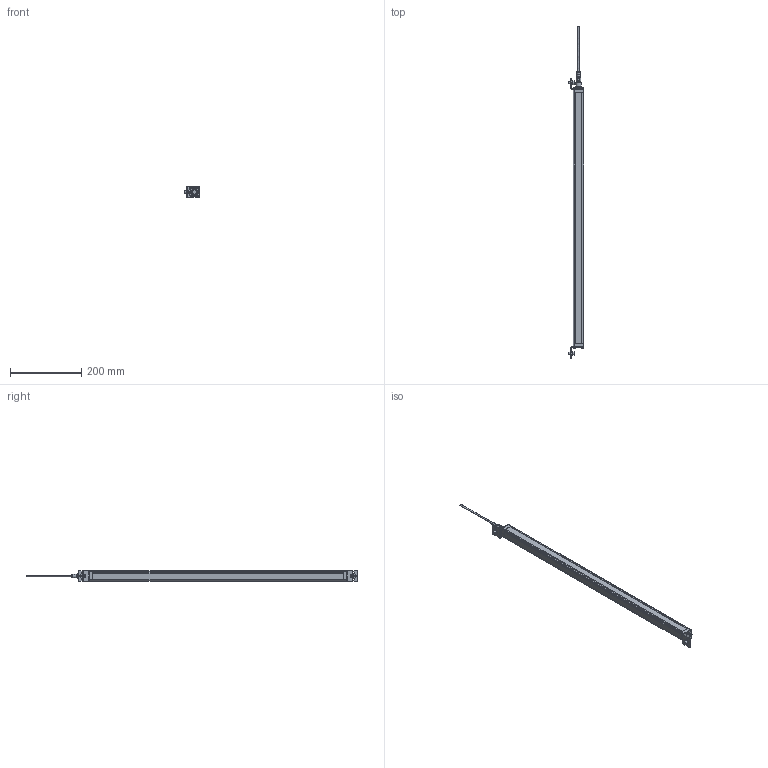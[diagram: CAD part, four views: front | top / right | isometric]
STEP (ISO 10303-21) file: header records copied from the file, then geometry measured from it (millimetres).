
FILE_DESCRIPTION(/* description */ (''),/* implementation_level */ '2;1');
FILE_NAME(/* name */ 'QE70-10-690.prt.stp',/* time_stamp */ '2023-07-18T20:07:22+08:00',/* author */ (''),/* organization */ (''),/* preprocessor_version */ 'ST-DEVELOPER v14',/* originating_system */ 'SIEMENS PLM Software NX 8.0',/* authorisation */ '');
FILE_SCHEMA (('CONFIG_CONTROL_DESIGN'));
Products named in the file (1): QE70-10-690
Bounding box: 44.2 x 928.8 x 30 mm (x, y, z)
Volume: 588666.7 mm3; surface area: 137709.9 mm2
Topology: 25 solids, 25 shells, 615 faces, 1569 edges, 1039 vertices
Faces by surface type: plane 335, cylinder 196, bspline 57, cone 18, sphere 5, torus 4
Full cylindrical faces by diameter (mm): 0.7 x2, 1 x5, 2 x5, 2.2 x8, 3.6 x8, 4 x4, 5.5 x12, 6 x2, 7 x2, 8 x1, 9.04 x1, 9.1 x1, 10 x3, 10.8 x1, 11 x2, 11.85 x1, 11.9 x1, 14.5 x1, 15 x2, 15.2 x2
Entity records: 41715 total; most frequent: CARTESIAN_POINT 27549, ORIENTED_EDGE 2832, DIRECTION 2774, EDGE_CURVE 1416, AXIS2_PLACEMENT_3D 1007, VERTEX_POINT 983, EDGE_LOOP 813, LINE 760
